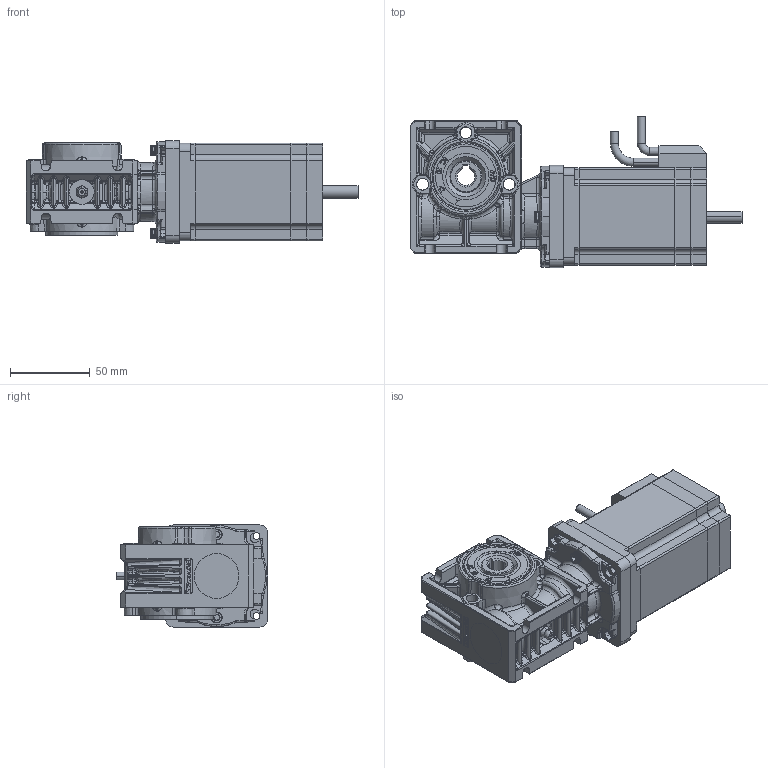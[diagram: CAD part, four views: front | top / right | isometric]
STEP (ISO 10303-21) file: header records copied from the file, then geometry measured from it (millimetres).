
FILE_DESCRIPTION (( 'STEP AP214' ), '1' );
FILE_NAME ('PBL60-50-GB28.STEP', '2024-09-14T12:19:23', ( '' ), ( '' ), 'SwSTEP 2.0', 'SolidWorks 2023', '' );
FILE_SCHEMA (( 'AUTOMOTIVE_DESIGN' ));
Length unit declared in the file: millimetre
Products named in the file (1): PBL60-50-GB28
Bounding box: 208 x 94.89 x 64 mm (x, y, z)
Volume: 535399.3 mm3; surface area: 144450 mm2
Topology: 21 solids, 21 shells, 3915 faces, 10029 edges, 6248 vertices
Faces by surface type: cylinder 1300, plane 1260, bspline 956, torus 147, cone 136, sphere 116
Entity records: 213564 total; most frequent: CARTESIAN_POINT 83310, ORIENTED_EDGE 19800, DIRECTION 15688, EDGE_CURVE 9900, VERTEX_POINT 6239, AXIS2_PLACEMENT_3D 5580, LINE 4528, VECTOR 4528
